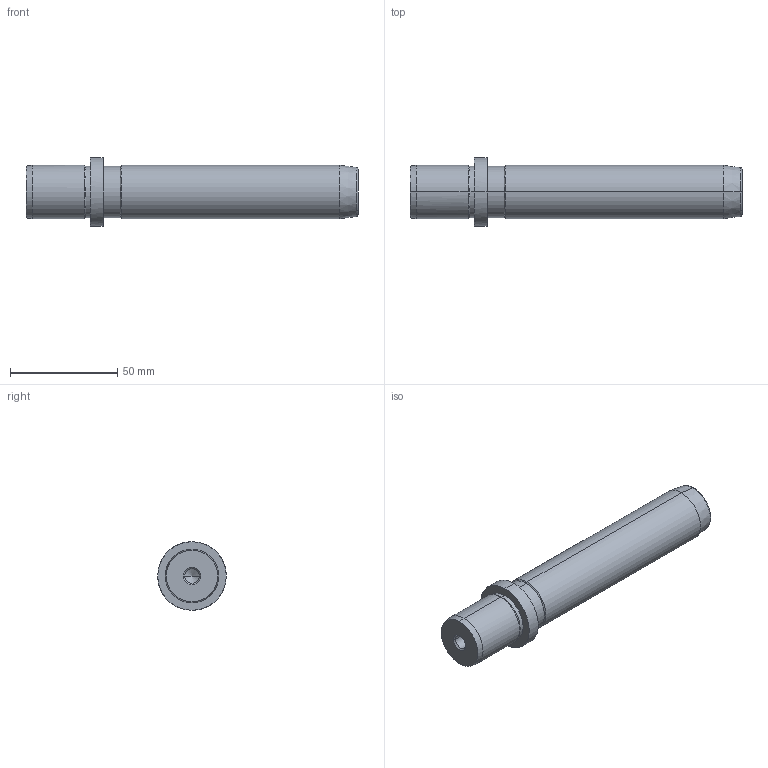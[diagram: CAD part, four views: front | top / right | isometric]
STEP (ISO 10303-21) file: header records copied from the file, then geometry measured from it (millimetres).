
FILE_DESCRIPTION(('CATIA V5 STEP Exchange'),'2;1');
FILE_NAME('C:\Users\Utente\Desktop\IO LAVORO\3D X SITO CF\X SITO\719\719-25x125.stp','2021-01-03T16:23:56+00:00',('none'),('none'),'CATIA Version 5 Release 20 GA (IN-10)','CATIA V5 STEP AP203','none');
FILE_SCHEMA(('CONFIG_CONTROL_DESIGN'));
Length unit declared in the file: millimetre
Products named in the file (1): 719-25x125
Bounding box: 155 x 32 x 32 mm (x, y, z)
Volume: 75388.2 mm3; surface area: 14810 mm2
Topology: 1 solids, 1 shells, 36 faces, 100 edges, 66 vertices
Faces by surface type: cone 16, cylinder 14, plane 4, torus 2
Entity records: 1270 total; most frequent: CARTESIAN_POINT 339, ORIENTED_EDGE 192, DIRECTION 158, EDGE_CURVE 96, AXIS2_PLACEMENT_3D 93, VERTEX_POINT 66, CIRCLE 56, EDGE_LOOP 40
